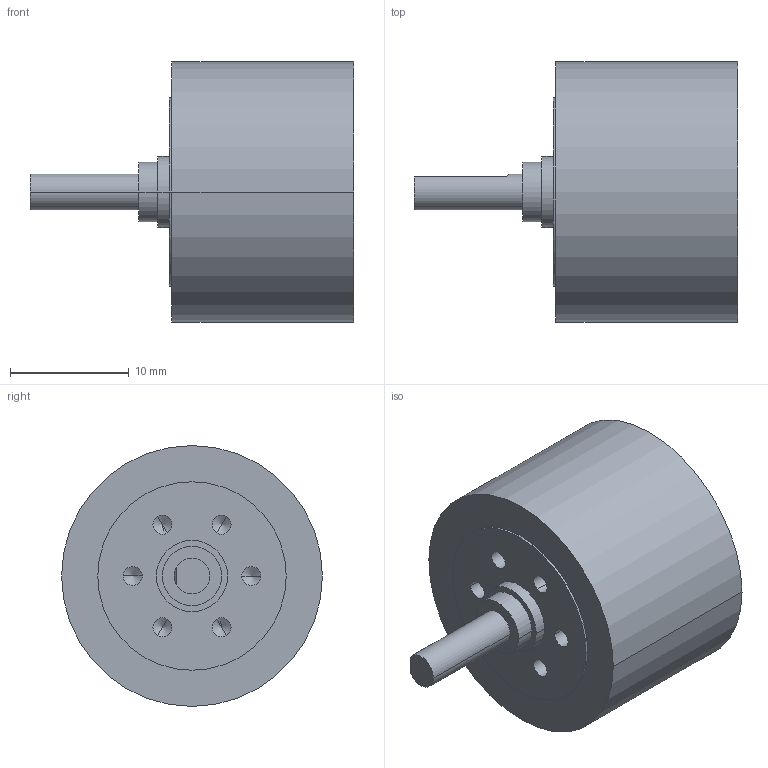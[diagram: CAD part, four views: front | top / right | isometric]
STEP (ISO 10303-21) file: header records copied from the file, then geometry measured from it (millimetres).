
FILE_DESCRIPTION((''),'2;1');
FILE_NAME('1118182','2010-02-04T',('MMAGMIBU'),(''),'PRO/ENGINEER BY PARAMETRIC TECHNOLOGY CORPORATION, 2009230','PRO/ENGINEER BY PARAMETRIC TECHNOLOGY CORPORATION, 2009230','');
FILE_SCHEMA(('CONFIG_CONTROL_DESIGN'));
Length unit declared in the file: millimetre
Products named in the file (1): 1118182
Bounding box: 27.3 x 22 x 22 mm (x, y, z)
Volume: 5197.8 mm3; surface area: 2209.4 mm2
Topology: 1 solids, 1 shells, 45 faces, 102 edges, 58 vertices
Faces by surface type: cylinder 24, cone 12, plane 9
Entity records: 1223 total; most frequent: DIRECTION 226, CARTESIAN_POINT 198, ORIENTED_EDGE 180, AXIS2_PLACEMENT_3D 93, EDGE_CURVE 90, VERTEX_POINT 58, EDGE_LOOP 56, CIRCLE 48
